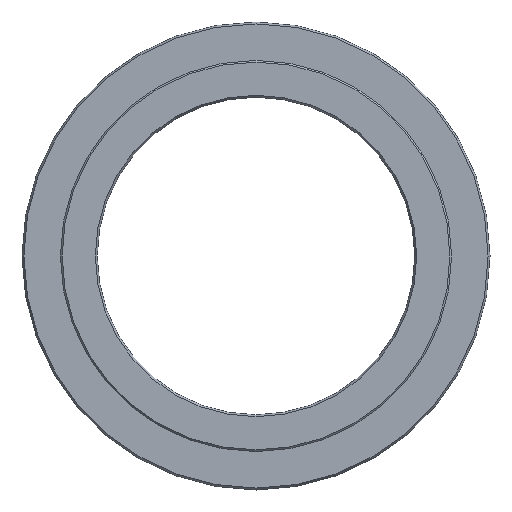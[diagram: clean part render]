
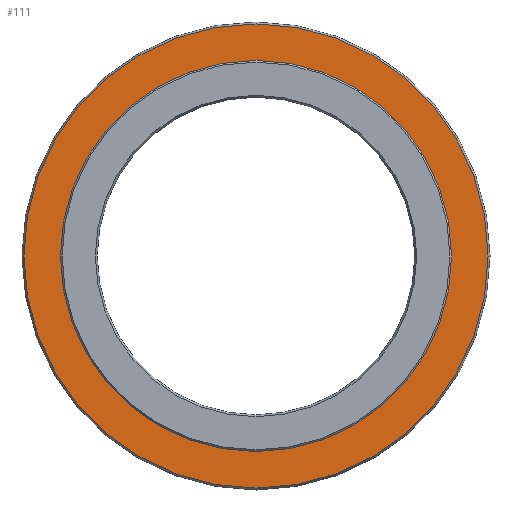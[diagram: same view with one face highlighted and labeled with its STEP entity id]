
A CAD part, left-side view. The second image highlights one B-rep face of the part: STEP entity #111.
In plain terms, the highlighted planar face has unit normal (-1, 0, 0).
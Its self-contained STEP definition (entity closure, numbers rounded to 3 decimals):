
#97=PLANE('',#323);
#111=ADVANCED_FACE('',(#144,#145),#97,.T.);
#144=FACE_BOUND('',#175,.T.);
#145=FACE_BOUND('',#176,.T.);
#175=EDGE_LOOP('',(#214));
#176=EDGE_LOOP('',(#215));
#214=ORIENTED_EDGE('',*,*,#279,.T.);
#215=ORIENTED_EDGE('',*,*,#280,.T.);
#258=VERTEX_POINT('',#465);
#259=VERTEX_POINT('',#467);
#279=EDGE_CURVE('',#258,#258,#298,.T.);
#280=EDGE_CURVE('',#259,#259,#299,.T.);
#298=CIRCLE('',#321,69.423);
#299=CIRCLE('',#322,58.5);
#321=AXIS2_PLACEMENT_3D('',#464,#369,#370);
#322=AXIS2_PLACEMENT_3D('',#466,#371,#372);
#323=AXIS2_PLACEMENT_3D('',#468,#373,#374);
#369=DIRECTION('',(-1.,0.,0.));
#370=DIRECTION('',(0.,0.,1.));
#371=DIRECTION('',(1.,0.,0.));
#372=DIRECTION('',(0.,0.,-1.));
#373=DIRECTION('',(-1.,0.,0.));
#374=DIRECTION('',(0.,0.,1.));
#464=CARTESIAN_POINT('',(0.,0.,0.));
#465=CARTESIAN_POINT('',(0.,0.,69.423));
#466=CARTESIAN_POINT('',(0.,0.,0.));
#467=CARTESIAN_POINT('',(0.,0.,-58.5));
#468=CARTESIAN_POINT('',(0.,70.,0.));
